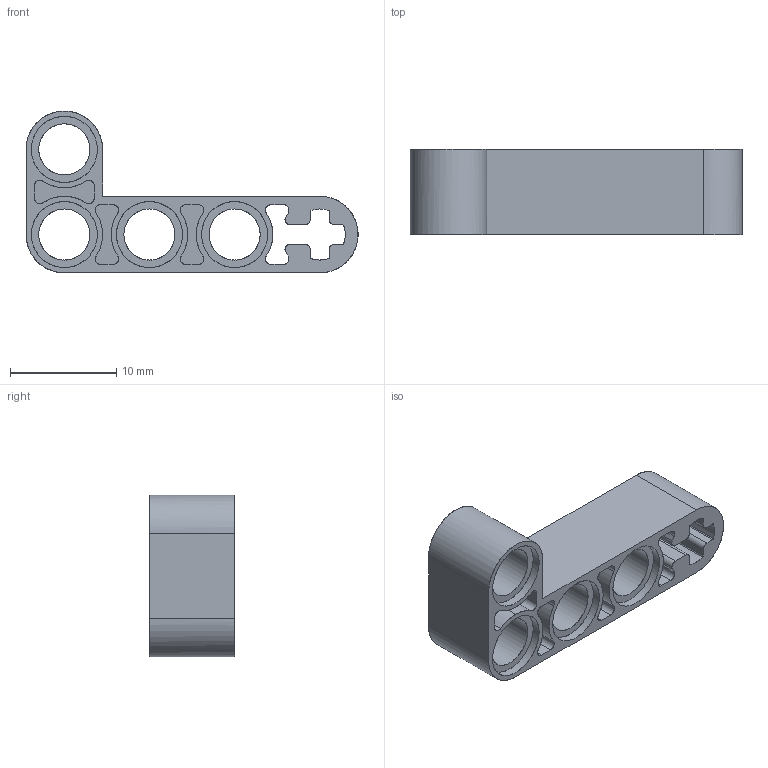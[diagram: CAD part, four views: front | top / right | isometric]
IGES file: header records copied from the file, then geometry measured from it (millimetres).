
Start section: C
Global section: file name: Ye_4141628_MBB.iges; native system: By Siemens PLM Incorporated; preprocessor: XPlus GENERIC/IGES 26.1.183; author: Author; organization: Title; date: 20250722.000731; units: millimetre
Bounding box: 31.19 x 8 x 15.19 mm (x, y, z)
Surface area: 2062.7 mm2 (no closed solid volume)
Topology: 0 solids, 0 shells, 122 faces, 684 edges, 684 vertices
Faces by surface type: bspline 122
